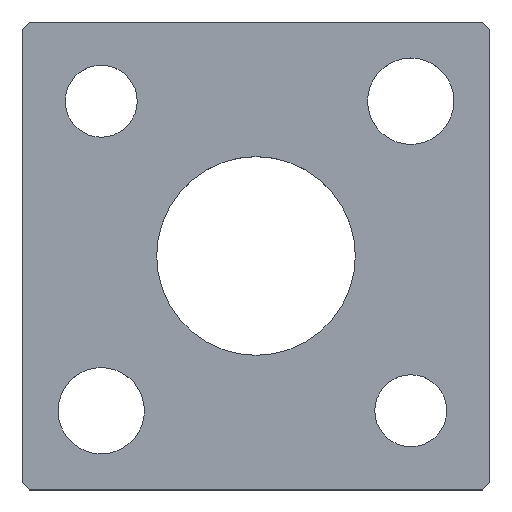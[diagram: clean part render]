
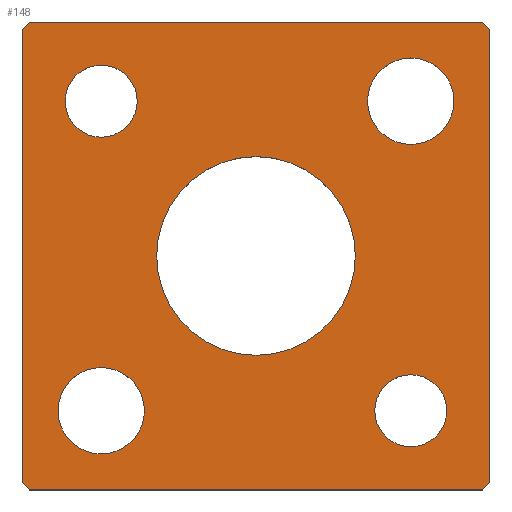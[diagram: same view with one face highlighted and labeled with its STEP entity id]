
A CAD part, top view. The second image highlights one B-rep face of the part: STEP entity #148.
In plain terms, the highlighted planar face has unit normal (0, 0, 1).
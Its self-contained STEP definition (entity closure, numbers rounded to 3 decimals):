
#117=CIRCLE('',#503,13.8);
#118=CIRCLE('',#504,13.8);
#119=CIRCLE('',#505,5.);
#120=CIRCLE('',#506,5.);
#121=CIRCLE('',#507,6.);
#122=CIRCLE('',#508,6.);
#123=CIRCLE('',#509,6.);
#124=CIRCLE('',#510,6.);
#125=CIRCLE('',#511,5.);
#126=CIRCLE('',#512,5.);
#133=FACE_BOUND('',#201,.T.);
#134=FACE_BOUND('',#202,.T.);
#135=FACE_BOUND('',#203,.T.);
#136=FACE_BOUND('',#204,.T.);
#137=FACE_BOUND('',#205,.T.);
#138=FACE_BOUND('',#206,.T.);
#148=ADVANCED_FACE('',(#133,#134,#135,#136,#137,#138),#168,.T.);
#168=PLANE('',#513);
#201=EDGE_LOOP('',(#267,#268,#269,#270,#271,#272,#273,#274));
#202=EDGE_LOOP('',(#275,#276));
#203=EDGE_LOOP('',(#277,#278));
#204=EDGE_LOOP('',(#279,#280));
#205=EDGE_LOOP('',(#281,#282));
#206=EDGE_LOOP('',(#283,#284));
#267=ORIENTED_EDGE('',*,*,#362,.T.);
#268=ORIENTED_EDGE('',*,*,#366,.T.);
#269=ORIENTED_EDGE('',*,*,#369,.T.);
#270=ORIENTED_EDGE('',*,*,#372,.T.);
#271=ORIENTED_EDGE('',*,*,#375,.T.);
#272=ORIENTED_EDGE('',*,*,#378,.T.);
#273=ORIENTED_EDGE('',*,*,#381,.T.);
#274=ORIENTED_EDGE('',*,*,#384,.T.);
#275=ORIENTED_EDGE('',*,*,#395,.T.);
#276=ORIENTED_EDGE('',*,*,#396,.T.);
#277=ORIENTED_EDGE('',*,*,#397,.T.);
#278=ORIENTED_EDGE('',*,*,#398,.T.);
#279=ORIENTED_EDGE('',*,*,#399,.T.);
#280=ORIENTED_EDGE('',*,*,#400,.T.);
#281=ORIENTED_EDGE('',*,*,#401,.T.);
#282=ORIENTED_EDGE('',*,*,#402,.T.);
#283=ORIENTED_EDGE('',*,*,#403,.T.);
#284=ORIENTED_EDGE('',*,*,#404,.T.);
#326=VERTEX_POINT('',#643);
#327=VERTEX_POINT('',#645);
#330=VERTEX_POINT('',#652);
#332=VERTEX_POINT('',#658);
#334=VERTEX_POINT('',#664);
#336=VERTEX_POINT('',#670);
#338=VERTEX_POINT('',#676);
#340=VERTEX_POINT('',#682);
#351=VERTEX_POINT('',#711);
#352=VERTEX_POINT('',#712);
#353=VERTEX_POINT('',#715);
#354=VERTEX_POINT('',#716);
#355=VERTEX_POINT('',#719);
#356=VERTEX_POINT('',#720);
#357=VERTEX_POINT('',#723);
#358=VERTEX_POINT('',#724);
#359=VERTEX_POINT('',#727);
#360=VERTEX_POINT('',#728);
#362=EDGE_CURVE('',#327,#326,#416,.T.);
#366=EDGE_CURVE('',#326,#330,#420,.T.);
#369=EDGE_CURVE('',#330,#332,#423,.T.);
#372=EDGE_CURVE('',#332,#334,#426,.T.);
#375=EDGE_CURVE('',#334,#336,#429,.T.);
#378=EDGE_CURVE('',#336,#338,#432,.T.);
#381=EDGE_CURVE('',#338,#340,#435,.T.);
#384=EDGE_CURVE('',#340,#327,#438,.T.);
#395=EDGE_CURVE('',#351,#352,#117,.T.);
#396=EDGE_CURVE('',#352,#351,#118,.T.);
#397=EDGE_CURVE('',#353,#354,#119,.T.);
#398=EDGE_CURVE('',#354,#353,#120,.T.);
#399=EDGE_CURVE('',#355,#356,#121,.T.);
#400=EDGE_CURVE('',#356,#355,#122,.T.);
#401=EDGE_CURVE('',#357,#358,#123,.T.);
#402=EDGE_CURVE('',#358,#357,#124,.T.);
#403=EDGE_CURVE('',#359,#360,#125,.T.);
#404=EDGE_CURVE('',#360,#359,#126,.T.);
#416=LINE('',#644,#450);
#420=LINE('',#653,#454);
#423=LINE('',#659,#457);
#426=LINE('',#665,#460);
#429=LINE('',#671,#463);
#432=LINE('',#677,#466);
#435=LINE('',#683,#469);
#438=LINE('',#687,#472);
#450=VECTOR('',#527,1.);
#454=VECTOR('',#533,1.);
#457=VECTOR('',#538,1.);
#460=VECTOR('',#543,1.);
#463=VECTOR('',#548,1.);
#466=VECTOR('',#553,1.);
#469=VECTOR('',#558,1.);
#472=VECTOR('',#563,1.);
#503=AXIS2_PLACEMENT_3D('',#710,#588,#589);
#504=AXIS2_PLACEMENT_3D('',#713,#590,#591);
#505=AXIS2_PLACEMENT_3D('',#714,#592,#593);
#506=AXIS2_PLACEMENT_3D('',#717,#594,#595);
#507=AXIS2_PLACEMENT_3D('',#718,#596,#597);
#508=AXIS2_PLACEMENT_3D('',#721,#598,#599);
#509=AXIS2_PLACEMENT_3D('',#722,#600,#601);
#510=AXIS2_PLACEMENT_3D('',#725,#602,#603);
#511=AXIS2_PLACEMENT_3D('',#726,#604,#605);
#512=AXIS2_PLACEMENT_3D('',#729,#606,#607);
#513=AXIS2_PLACEMENT_3D('',#730,#608,#609);
#527=DIRECTION('',(0.707,-0.707,0.));
#533=DIRECTION('',(1.,0.,0.));
#538=DIRECTION('',(0.707,0.707,0.));
#543=DIRECTION('',(0.,1.,0.));
#548=DIRECTION('',(-0.707,0.707,0.));
#553=DIRECTION('',(-1.,0.,0.));
#558=DIRECTION('',(-0.707,-0.707,0.));
#563=DIRECTION('',(0.,-1.,0.));
#588=DIRECTION('',(0.,0.,-1.));
#589=DIRECTION('',(-1.,0.,0.));
#590=DIRECTION('',(0.,0.,-1.));
#591=DIRECTION('',(1.,0.,0.));
#592=DIRECTION('',(0.,0.,-1.));
#593=DIRECTION('',(-1.,0.,0.));
#594=DIRECTION('',(0.,0.,-1.));
#595=DIRECTION('',(1.,0.,0.));
#596=DIRECTION('',(0.,0.,-1.));
#597=DIRECTION('',(-1.,0.,0.));
#598=DIRECTION('',(0.,0.,-1.));
#599=DIRECTION('',(1.,0.,0.));
#600=DIRECTION('',(0.,0.,-1.));
#601=DIRECTION('',(-1.,0.,0.));
#602=DIRECTION('',(0.,0.,-1.));
#603=DIRECTION('',(1.,0.,0.));
#604=DIRECTION('',(0.,0.,-1.));
#605=DIRECTION('',(-1.,0.,0.));
#606=DIRECTION('',(0.,0.,-1.));
#607=DIRECTION('',(1.,0.,0.));
#608=DIRECTION('',(0.,0.,1.));
#609=DIRECTION('',(0.,-1.,0.));
#643=CARTESIAN_POINT('',(-31.5,-32.5,5.));
#644=CARTESIAN_POINT('',(-32.5,-31.5,5.));
#645=CARTESIAN_POINT('',(-32.5,-31.5,5.));
#652=CARTESIAN_POINT('',(31.5,-32.5,5.));
#653=CARTESIAN_POINT('',(-31.5,-32.5,5.));
#658=CARTESIAN_POINT('',(32.5,-31.5,5.));
#659=CARTESIAN_POINT('',(32.5,-31.5,5.));
#664=CARTESIAN_POINT('',(32.5,31.5,5.));
#665=CARTESIAN_POINT('',(32.5,31.5,5.));
#670=CARTESIAN_POINT('',(31.5,32.5,5.));
#671=CARTESIAN_POINT('',(31.5,32.5,5.));
#676=CARTESIAN_POINT('',(-31.5,32.5,5.));
#677=CARTESIAN_POINT('',(-31.5,32.5,5.));
#682=CARTESIAN_POINT('',(-32.5,31.5,5.));
#683=CARTESIAN_POINT('',(-32.5,31.5,5.));
#687=CARTESIAN_POINT('',(-32.5,31.5,5.));
#710=CARTESIAN_POINT('',(0.,0.,5.));
#711=CARTESIAN_POINT('',(0.,13.8,5.));
#712=CARTESIAN_POINT('',(0.,-13.8,5.));
#713=CARTESIAN_POINT('',(0.,0.,5.));
#714=CARTESIAN_POINT('',(-21.5,21.5,5.));
#715=CARTESIAN_POINT('',(-21.5,26.5,5.));
#716=CARTESIAN_POINT('',(-21.5,16.5,5.));
#717=CARTESIAN_POINT('',(-21.5,21.5,5.));
#718=CARTESIAN_POINT('',(21.5,21.5,5.));
#719=CARTESIAN_POINT('',(21.5,27.5,5.));
#720=CARTESIAN_POINT('',(21.5,15.5,5.));
#721=CARTESIAN_POINT('',(21.5,21.5,5.));
#722=CARTESIAN_POINT('',(-21.5,-21.5,5.));
#723=CARTESIAN_POINT('',(-21.5,-15.5,5.));
#724=CARTESIAN_POINT('',(-21.5,-27.5,5.));
#725=CARTESIAN_POINT('',(-21.5,-21.5,5.));
#726=CARTESIAN_POINT('',(21.5,-21.5,5.));
#727=CARTESIAN_POINT('',(21.5,-16.5,5.));
#728=CARTESIAN_POINT('',(21.5,-26.5,5.));
#729=CARTESIAN_POINT('',(21.5,-21.5,5.));
#730=CARTESIAN_POINT('',(-32.5,-31.5,5.));
